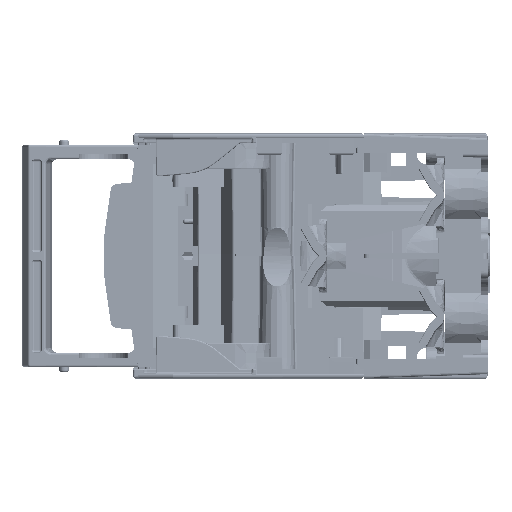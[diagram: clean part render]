
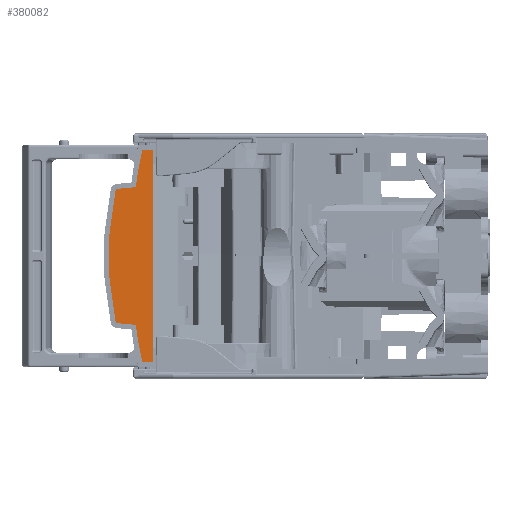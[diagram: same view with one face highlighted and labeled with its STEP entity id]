
A CAD part, left-side view. The second image highlights one B-rep face of the part: STEP entity #380082.
In plain terms, the highlighted planar face has unit normal (-1, 0, 0).
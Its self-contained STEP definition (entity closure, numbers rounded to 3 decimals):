
#13999 = ORIENTED_EDGE ( 'NONE', *, *, #445779, .F. ) ;
#14016 = ORIENTED_EDGE ( 'NONE', *, *, #442557, .T. ) ;
#14033 = ORIENTED_EDGE ( 'NONE', *, *, #443393, .F. ) ;
#14047 = ORIENTED_EDGE ( 'NONE', *, *, #437038, .F. ) ;
#14061 = ORIENTED_EDGE ( 'NONE', *, *, #463077, .T. ) ;
#14079 = ORIENTED_EDGE ( 'NONE', *, *, #446049, .T. ) ;
#14094 = ORIENTED_EDGE ( 'NONE', *, *, #444493, .T. ) ;
#14110 = ORIENTED_EDGE ( 'NONE', *, *, #436682, .T. ) ;
#14125 = ORIENTED_EDGE ( 'NONE', *, *, #437515, .T. ) ;
#14140 = ORIENTED_EDGE ( 'NONE', *, *, #441688, .T. ) ;
#14157 = ORIENTED_EDGE ( 'NONE', *, *, #438244, .T. ) ;
#14171 = ORIENTED_EDGE ( 'NONE', *, *, #445678, .T. ) ;
#18094 = VERTEX_POINT ( 'NONE', #135287 ) ;
#18850 = VERTEX_POINT ( 'NONE', #135626 ) ;
#20129 = VERTEX_POINT ( 'NONE', #136100 ) ;
#20575 = VERTEX_POINT ( 'NONE', #136300 ) ;
#21962 = VERTEX_POINT ( 'NONE', #35528 ) ;
#22120 = VERTEX_POINT ( 'NONE', #35627 ) ;
#22181 = VERTEX_POINT ( 'NONE', #35681 ) ;
#22457 = VERTEX_POINT ( 'NONE', #35847 ) ;
#35528 = CARTESIAN_POINT ( 'NONE',  ( -375., 99.363, -27.16 ) ) ;
#35627 = CARTESIAN_POINT ( 'NONE',  ( -375., 85., 43. ) ) ;
#35681 = CARTESIAN_POINT ( 'NONE',  ( -375., 85., -43. ) ) ;
#35847 = CARTESIAN_POINT ( 'NONE',  ( -375., 88.585, 43. ) ) ;
#36894 = CARTESIAN_POINT ( 'NONE',  ( -375., 89.564, -42.208 ) ) ;
#36907 = CARTESIAN_POINT ( 'NONE',  ( -375., 92.088, -27.796 ) ) ;
#36928 = CARTESIAN_POINT ( 'NONE',  ( -375., 100.254, -26.369 ) ) ;
#37036 = CARTESIAN_POINT ( 'NONE',  ( -375., 88.585, -43. ) ) ;
#46086 = VERTEX_POINT ( 'NONE', #36894 ) ;
#46097 = VERTEX_POINT ( 'NONE', #36907 ) ;
#46115 = VERTEX_POINT ( 'NONE', #36928 ) ;
#46197 = VERTEX_POINT ( 'NONE', #37036 ) ;
#92460 = CIRCLE ( 'NONE', #92464, 203. ) ;
#92464 = AXIS2_PLACEMENT_3D ( 'NONE', #95497, #95499, #95500 ) ;
#95497 = CARTESIAN_POINT ( 'NONE',  ( -375., -109., 0. ) ) ;
#95499 = DIRECTION ( 'NONE',  ( 1., 0., 0. ) ) ;
#95500 = DIRECTION ( 'NONE',  ( 0., 0., -1. ) ) ;
#135287 = CARTESIAN_POINT ( 'NONE',  ( -375., 92.088, 27.796 ) ) ;
#135626 = CARTESIAN_POINT ( 'NONE',  ( -375., 100.254, 26.369 ) ) ;
#136100 = CARTESIAN_POINT ( 'NONE',  ( -375., 89.564, 42.208 ) ) ;
#136300 = CARTESIAN_POINT ( 'NONE',  ( -375., 99.363, 27.16 ) ) ;
#165005 = LINE ( 'NONE', #165030, #166772 ) ;
#165030 = CARTESIAN_POINT ( 'NONE',  ( -375., 85., -43. ) ) ;
#165035 = DIRECTION ( 'NONE',  ( 0., 0., 1. ) ) ;
#166772 = VECTOR ( 'NONE', #165035, 1000. ) ;
#167256 = VECTOR ( 'NONE', #350167, 1000. ) ;
#168166 = CIRCLE ( 'NONE', #168174, 128. ) ;
#168174 = AXIS2_PLACEMENT_3D ( 'NONE', #353873, #353876, #353879 ) ;
#182316 = LINE ( 'NONE', #182326, #468526 ) ;
#182326 = CARTESIAN_POINT ( 'NONE',  ( -375., 100.099, -27.095 ) ) ;
#182331 = DIRECTION ( 'NONE',  ( 0., -0.996, -0.087 ) ) ;
#250884 = CARTESIAN_POINT ( 'NONE',  ( -375., 88.585, 42. ) ) ;
#250887 = DIRECTION ( 'NONE',  ( -1., 0., 0. ) ) ;
#250893 = DIRECTION ( 'NONE',  ( 0., 0., 1. ) ) ;
#252483 = AXIS2_PLACEMENT_3D ( 'NONE', #461185, #461187, #461190 ) ;
#252486 = CIRCLE ( 'NONE', #252483, 203. ) ;
#261027 = CARTESIAN_POINT ( 'NONE',  ( -375., 88.585, -42. ) ) ;
#261029 = DIRECTION ( 'NONE',  ( -1., 0., 0. ) ) ;
#261031 = DIRECTION ( 'NONE',  ( 0., 0., 1. ) ) ;
#270560 = EDGE_LOOP ( 'NONE', ( #13999, #14016, #14033, #14047, #14061, #14079, #14094, #14110, #14125, #14140, #14157, #14171 ) ) ;
#349917 = CARTESIAN_POINT ( 'NONE',  ( -375., 89.394, 43. ) ) ;
#350144 = LINE ( 'NONE', #349917, #167256 ) ;
#350167 = DIRECTION ( 'NONE',  ( 0., -1., 0. ) ) ;
#353873 = CARTESIAN_POINT ( 'NONE',  ( -375., -25., 0. ) ) ;
#353876 = DIRECTION ( 'NONE',  ( -1., 0., 0. ) ) ;
#353879 = DIRECTION ( 'NONE',  ( 0., 0., 1. ) ) ;
#367668 = CIRCLE ( 'NONE', #367684, 1. ) ;
#367684 = AXIS2_PLACEMENT_3D ( 'NONE', #375230, #375235, #375240 ) ;
#374660 = LINE ( 'NONE', #374666, #523436 ) ;
#374666 = CARTESIAN_POINT ( 'NONE',  ( -375., 89.394, -43. ) ) ;
#374672 = DIRECTION ( 'NONE',  ( 0., -1., 0. ) ) ;
#375230 = CARTESIAN_POINT ( 'NONE',  ( -375., 99.276, -26.163 ) ) ;
#375235 = DIRECTION ( 'NONE',  ( -1., 0., 0. ) ) ;
#375240 = DIRECTION ( 'NONE',  ( 0., 0., 1. ) ) ;
#380082 = ADVANCED_FACE ( 'NONE', ( #448333 ), #448231, .T. ) ;
#408797 = CARTESIAN_POINT ( 'NONE',  ( -375., 99.276, 26.163 ) ) ;
#408802 = DIRECTION ( 'NONE',  ( -1., 0., 0. ) ) ;
#408806 = DIRECTION ( 'NONE',  ( 0., 0., 1. ) ) ;
#426181 = CIRCLE ( 'NONE', #426191, 1. ) ;
#426191 = AXIS2_PLACEMENT_3D ( 'NONE', #408797, #408802, #408806 ) ;
#436682 = EDGE_CURVE ( 'NONE', #21962, #46097, #182316, .T. ) ;
#437038 = EDGE_CURVE ( 'NONE', #20575, #18094, #543593, .T. ) ;
#437515 = EDGE_CURVE ( 'NONE', #46097, #46086, #252486, .T. ) ;
#438244 = EDGE_CURVE ( 'NONE', #46197, #22181, #374660, .T. ) ;
#441688 = EDGE_CURVE ( 'NONE', #46086, #46197, #455595, .T. ) ;
#442557 = EDGE_CURVE ( 'NONE', #22457, #20129, #458737, .T. ) ;
#443393 = EDGE_CURVE ( 'NONE', #18094, #20129, #92460, .T. ) ;
#444493 = EDGE_CURVE ( 'NONE', #46115, #21962, #367668, .T. ) ;
#445678 = EDGE_CURVE ( 'NONE', #22181, #22120, #165005, .T. ) ;
#445779 = EDGE_CURVE ( 'NONE', #22457, #22120, #350144, .T. ) ;
#446049 = EDGE_CURVE ( 'NONE', #18850, #46115, #168166, .T. ) ;
#448231 = PLANE ( 'NONE',  #464964 ) ;
#448333 = FACE_OUTER_BOUND ( 'NONE', #270560, .T. ) ;
#448413 = CARTESIAN_POINT ( 'NONE',  ( -375., -109., 0. ) ) ;
#448417 = DIRECTION ( 'NONE',  ( -1., 0., 0. ) ) ;
#448422 = DIRECTION ( 'NONE',  ( 0., 0., 1. ) ) ;
#455595 = CIRCLE ( 'NONE', #455623, 1. ) ;
#455623 = AXIS2_PLACEMENT_3D ( 'NONE', #261027, #261029, #261031 ) ;
#458737 = CIRCLE ( 'NONE', #458744, 1. ) ;
#458744 = AXIS2_PLACEMENT_3D ( 'NONE', #250884, #250887, #250893 ) ;
#461185 = CARTESIAN_POINT ( 'NONE',  ( -375., -109., 0. ) ) ;
#461187 = DIRECTION ( 'NONE',  ( -1., 0., 0. ) ) ;
#461190 = DIRECTION ( 'NONE',  ( 0., 0., 1. ) ) ;
#463077 = EDGE_CURVE ( 'NONE', #20575, #18850, #426181, .T. ) ;
#464964 = AXIS2_PLACEMENT_3D ( 'NONE', #448413, #448417, #448422 ) ;
#468526 = VECTOR ( 'NONE', #182331, 1000. ) ;
#470001 = VECTOR ( 'NONE', #543619, 1000. ) ;
#523436 = VECTOR ( 'NONE', #374672, 1000. ) ;
#543593 = LINE ( 'NONE', #543610, #470001 ) ;
#543610 = CARTESIAN_POINT ( 'NONE',  ( -375., 100.099, 27.095 ) ) ;
#543619 = DIRECTION ( 'NONE',  ( 0., -0.996, 0.087 ) ) ;
